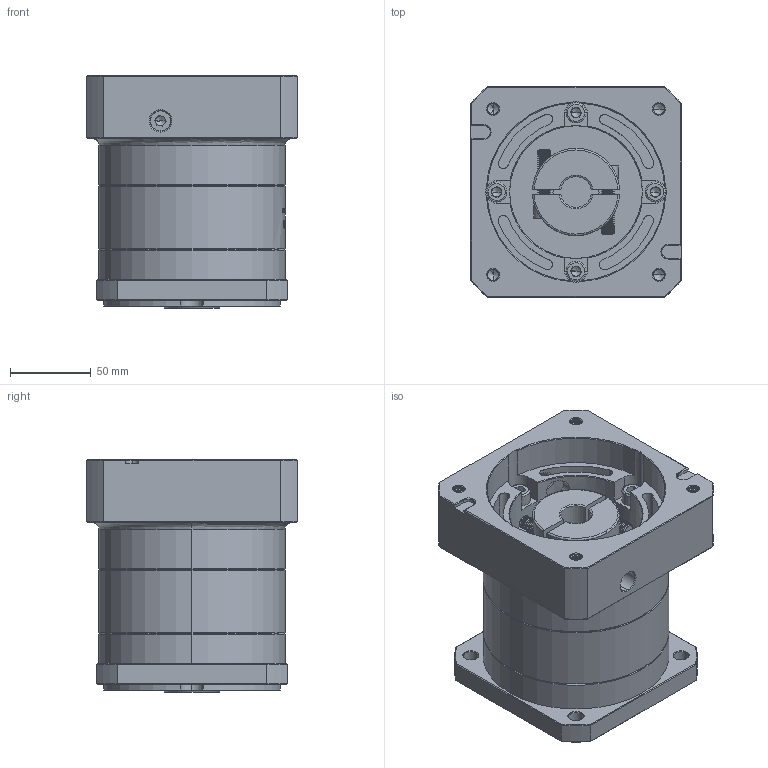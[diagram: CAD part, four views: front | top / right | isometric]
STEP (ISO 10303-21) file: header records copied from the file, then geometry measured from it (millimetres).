
FILE_DESCRIPTION (( 'STEP AP214' ), '1' );
FILE_NAME ('ZF120A-K25-L1-19-110-145-M8.step', '2023-03-07T09:36:09', ( '' ), ( '' ), 'SwSTEP 2.0', 'SolidWorks 2016', '' );
FILE_SCHEMA (( 'AUTOMOTIVE_DESIGN' ));
Length unit declared in the file: millimetre
Products named in the file (1): ZF120A-K25-L1-19-110-145-M8
Bounding box: 130 x 130 x 144 mm (x, y, z)
Volume: 1412699.2 mm3; surface area: 179783.8 mm2
Topology: 6 solids, 6 shells, 1945 faces, 5129 edges, 3276 vertices
Faces by surface type: plane 876, cylinder 416, cone 320, bspline 314, torus 19
Entity records: 104913 total; most frequent: CARTESIAN_POINT 39005, ORIENTED_EDGE 10202, DIRECTION 7976, EDGE_CURVE 5101, VERTEX_POINT 3276, VECTOR 2770, LINE 2770, AXIS2_PLACEMENT_3D 2603
